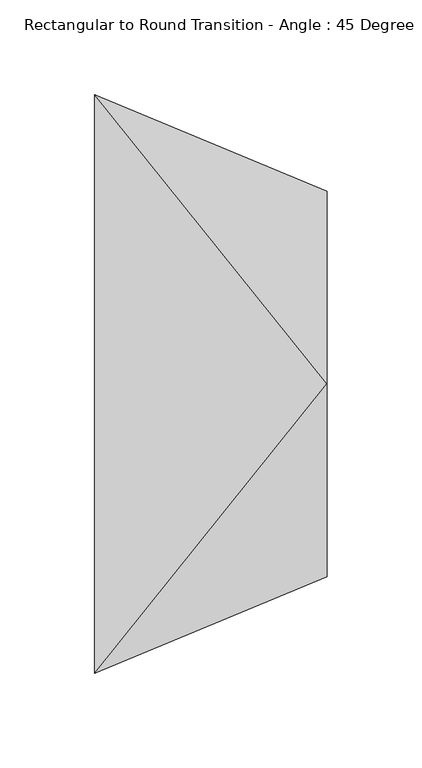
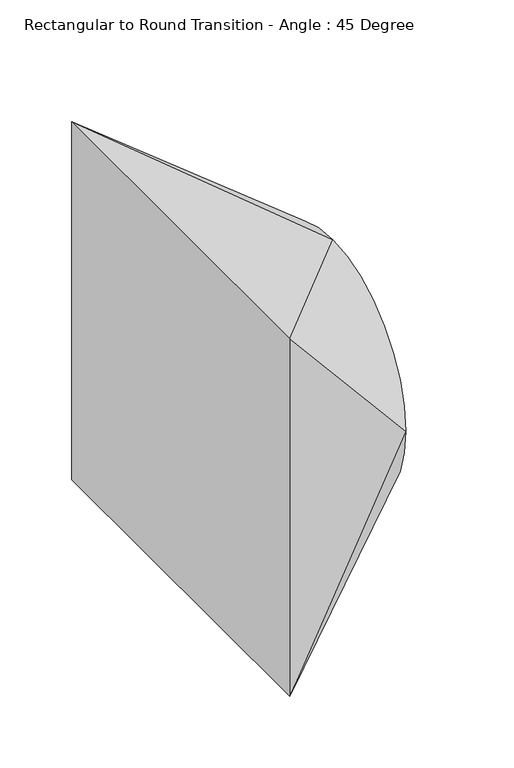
"""IFC4 building model written with IfcOpenShell, lengths in millimetres: duct fitting geometry, Rectangular to Round Transition - Angle : 45 Degree."""

from ifc_helpers import new_model, si_unit, frame, origin, place, context, project, spatial, circle_curve, source, transform, mapped, element, save
from ifc_brep_helpers import plane_surface, spline_surface, advanced_brep


def rectangular_to_round_transition_angle_45_degree_9539f114(model_context):
    return source(origin(), model_context, "Body", "AdvancedBrep", [
        advanced_brep(
        [(122.642049, 0.0, 101.6), (122.642049, -101.6, 0.0), (122.642049, 0.0, -101.6), (122.642049, 101.6, 0.0), (0.0, -152.4, 152.4), (0.0, 152.4, 152.4), (0.0, 152.4, -152.4), (0.0, -152.4, -152.4)],
        [
            (0, 1, circle_curve(frame((122.642049, 0.0, 0.0), z_axis=(1.0, 0.0, 0.0), x_axis=(0.0, 1.0, 0.0)), 101.6)),
            (1, 2, circle_curve(frame((122.642049, 0.0, 0.0), z_axis=(1.0, 0.0, 0.0), x_axis=(0.0, 1.0, 0.0)), 101.6)),
            (2, 3, circle_curve(frame((122.642049, 0.0, 0.0), z_axis=(1.0, 0.0, 0.0), x_axis=(0.0, 1.0, 0.0)), 101.6)),
            (3, 0, circle_curve(frame((122.642049, 0.0, 0.0), z_axis=(1.0, 0.0, 0.0), x_axis=(0.0, 1.0, 0.0)), 101.6)),
            (4, 5),
            (5, 6),
            (6, 7),
            (7, 4),
            (0, 4),
            (4, 1),
            (7, 1),
            (7, 2),
            (6, 2),
            (6, 3),
            (5, 3),
            (5, 0),
        ],
        [
            plane_surface(frame((122.642049, 0.0, 0.0), z_axis=(1.0, 0.0, 0.0), x_axis=(0.0, 0.0, -1.0))),
            plane_surface(frame((0.0, 0.0, 0.0), z_axis=(-1.0, 0.0, 0.0), x_axis=(0.0, 0.0, -1.0))),
            spline_surface(2, 1, [[(0.0, -152.4, 152.4), (122.642049, 0.0, 101.6)], [(0.0, -152.4, 152.4), (122.642049, -101.6, 101.6)], [(0.0, -152.4, 152.4), (122.642049, -101.6, 0.0)]], [3, 3], [2, 2], [0.0, 1.0], [0.0, 1.0], weights=[[1.0, 1.0], [0.7071067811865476, 0.7071067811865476], [1.0, 1.0]]),
            plane_surface(frame((0.0, -152.4, 0.0), z_axis=(0.3826834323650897, -0.9238795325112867, 0.0), x_axis=(0.0, 0.0, -1.0))),
            spline_surface(2, 1, [[(0.0, -152.4, -152.4), (122.642049, -101.6, 0.0)], [(0.0, -152.4, -152.4), (122.642049, -101.6, -101.6)], [(0.0, -152.4, -152.4), (122.642049, 0.0, -101.6)]], [3, 3], [2, 2], [0.0, 1.0], [0.0, 1.0], weights=[[1.0, 1.0], [0.7071067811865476, 0.7071067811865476], [1.0, 1.0]]),
            plane_surface(frame((0.0, 0.0, -152.4), z_axis=(0.3826834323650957, 0.0, -0.9238795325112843), x_axis=(0.0, 1.0, 0.0))),
            spline_surface(2, 1, [[(0.0, 152.4, -152.4), (122.642049, 0.0, -101.6)], [(0.0, 152.4, -152.4), (122.642049, 101.6, -101.6)], [(0.0, 152.4, -152.4), (122.642049, 101.6, 0.0)]], [3, 3], [2, 2], [0.0, 1.0], [0.0, 1.0], weights=[[1.0, 1.0], [0.7071067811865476, 0.7071067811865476], [1.0, 1.0]]),
            plane_surface(frame((0.0, 152.4, 0.0), z_axis=(0.38268343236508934, 0.923879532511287, 0.0), x_axis=(0.0, 0.0, 1.0))),
            spline_surface(2, 1, [[(0.0, 152.4, 152.4), (122.642049, 101.6, 0.0)], [(0.0, 152.4, 152.4), (122.642049, 101.6, 101.6)], [(0.0, 152.4, 152.4), (122.642049, 0.0, 101.6)]], [3, 3], [2, 2], [0.0, 1.0], [0.0, 1.0], weights=[[1.0, 1.0], [0.7071067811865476, 0.7071067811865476], [1.0, 1.0]]),
            plane_surface(frame((0.0, 0.0, 152.4), z_axis=(0.3826834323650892, 0.0, 0.923879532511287), x_axis=(0.0, -1.0, 0.0))),
        ],
        [
            (0, [[1, 2, 3, 4]]),
            (1, [[5, 6, 7, 8]]),
            (2, [[-1, 9, 10]]),
            (3, [[-8, 11, -10]]),
            (4, [[-2, -11, 12]]),
            (5, [[-7, 13, -12]]),
            (6, [[-3, -13, 14]]),
            (7, [[-6, 15, -14]]),
            (8, [[-4, -15, 16]]),
            (9, [[-5, -9, -16]]),
        ],
    ),
    ])


if __name__ == "__main__":
    model = new_model("IFC4")
    model_context = context("Model", 3, world=origin())
    ifc_project = project(units=[si_unit("LENGTHUNIT", "METRE", prefix="MILLI")], contexts=[model_context])
    site = spatial("IfcSite", under=ifc_project)
    building = spatial("IfcBuilding", under=site)
    placement = place(None, origin())
    rectangular_to_round_transition_angle_45_degree_shape = rectangular_to_round_transition_angle_45_degree_9539f114(model_context)
    element("IfcDuctFitting", 1, ObjectType="Rectangular to Round Transition - Angle : 45 Degree", at=placement, inside=building, context=model_context, shape_type="MappedRepresentation", body=[
        mapped(rectangular_to_round_transition_angle_45_degree_shape, transform((0.0, 0.0, 0.0), x_axis=(1.0, 0.0, 0.0), y_axis=(0.0, 1.0, 0.0), z_axis=(0.0, 0.0, 1.0))),
    ])
    save(model, "model.ifc")
